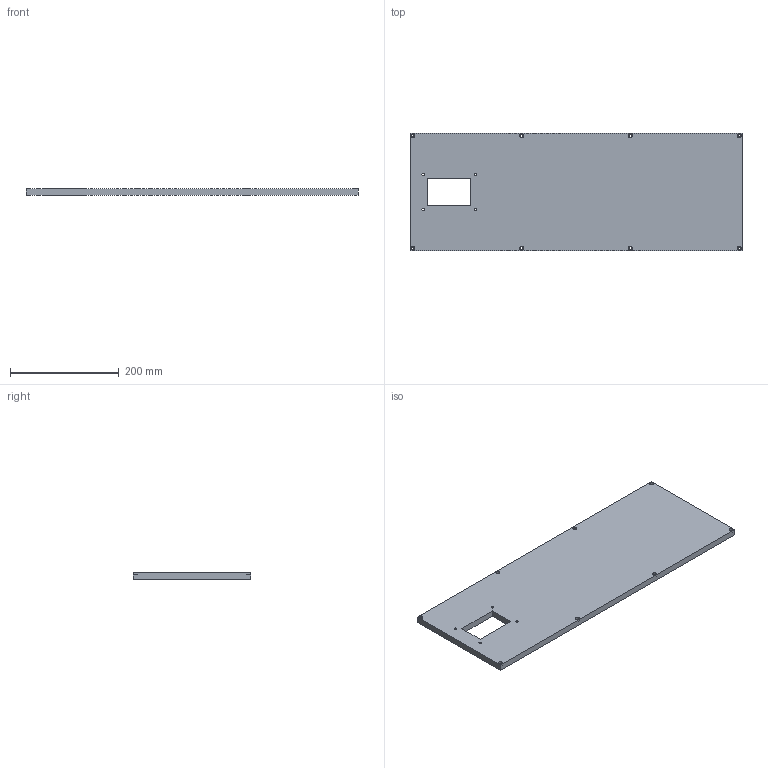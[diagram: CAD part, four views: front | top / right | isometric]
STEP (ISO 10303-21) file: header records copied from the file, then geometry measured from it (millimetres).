
FILE_DESCRIPTION(/* description */ ('STEP AP242','CAx-IF Rec.Pracs.---Representation and Presentation of Product Manufacturing Information (PMI)---4.0---2014-10-13','CAx-IF Rec.Pracs.---3D Tessellated Geometry---0.4---2014-09-14','2;1'),/* implementation_level */ '2;1');
FILE_NAME(/* name */ 'Assembly 1 - Part 1 (6)',/* time_stamp */ '2025-05-18T07:24:53Z',/* author */ (''),/* organization */ (''),/* preprocessor_version */ 'ST-DEVELOPER v20',/* originating_system */ 'ONSHAPE BY PTC INC, 1.198',/* authorisation */ ' ');
FILE_SCHEMA (('AP242_MANAGED_MODEL_BASED_3D_ENGINEERING_MIM_LF { 1 0 10303 442 1 1 4 }'));
Length unit declared in the file: metre
Products named in the file (1): Part 1
Bounding box: 610 x 216.22 x 12 mm (x, y, z)
Volume: 1533585.8 mm3; surface area: 280939.3 mm2
Topology: 1 solids, 1 shells, 38 faces, 84 edges, 56 vertices
Faces by surface type: cylinder 20, plane 18
Full cylindrical faces by diameter (mm): 4.4 x12, 7.4 x8
Entity records: 1042 total; most frequent: DIRECTION 182, CARTESIAN_POINT 159, ORIENTED_EDGE 128, EDGE_LOOP 92, FACE_BOUND 92, AXIS2_PLACEMENT_3D 79, EDGE_CURVE 64, VERTEX_POINT 56
